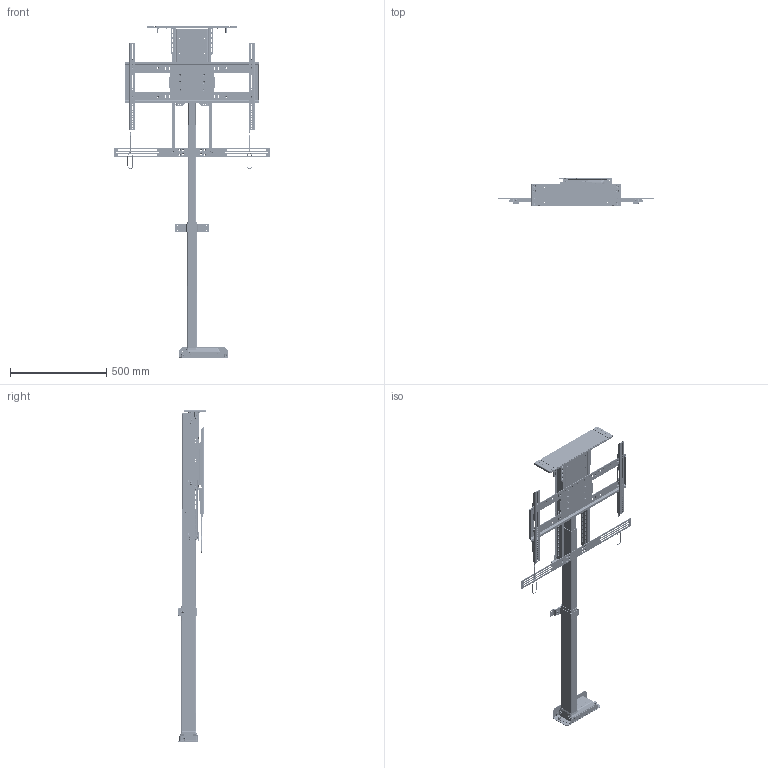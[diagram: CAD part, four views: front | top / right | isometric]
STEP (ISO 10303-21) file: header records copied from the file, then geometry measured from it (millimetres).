
FILE_DESCRIPTION(/* description */ ('STEP AP242','CAx-IF Rec.Pracs.---Representation and Presentation of Product Manufacturing Information (PMI)---4.0---2014-10-13','CAx-IF Rec.Pracs.---3D Tessellated Geometry---0.4---2014-09-14','2;1'),/* implementation_level */ '2;1');
FILE_NAME(/* name */ '63effbe2e841dc2814848030',/* time_stamp */ '2023-02-17T22:12:55+00:00',/* author */ (''),/* organization */ (''),/* preprocessor_version */ 'ST-DEVELOPER v18.102',/* originating_system */ ' ',/* authorisation */ ' ');
FILE_SCHEMA (('AP242_MANAGED_MODEL_BASED_3D_ENGINEERING_MIM_LF { 1 0 10303 442 1 1 4 }'));
Products named in the file (64): L-65/s; Hex socket countersunk head screw M6x1 x 16; Hex socket countersunk head screw M6x1 x 12; Socket button head screw M6x1 x 12; WDS8151-215; ULS-NX-011 - ULS ACCESSORY MOUNTING BRACKET SPACER <2>; ULS-NX-011 - UL ACCESSORY MOUNTING BRACKET SPACER; PRODUCT_NAME_1; ULS Accessories <1>; ULS-NX-010 - ULS ACCESSORY MOUNTING BRACKET W PEMS <2>; PEM CLS-M6-2  ; ULS-NX-010 - UL ACCESSORY MOUNTING BRACKET; L-85 SOUND BAR MOUNT; ULS-NX-010 - ULS ACCESSORY MOUNTING BRACKET W PEMS <1>; ULS-NX-108 - ULS SCREEN SUPPORT WELDMENT <1>; PEM CLS-M6-1  ; F-M6-3 M6 PEM NUT; ULS-NX-008 - UL SCREEN SUPPORT SHELL; ULS-NX-009 - ULS SCREEN SUPPORT TOP PLATE <1>; ULS-NX-009 - UL SCREEN SUPPORT TOP PLATE; Lid Plate Assembly W/ Lid Supports <1>; ULS-NX-012 - ULS LID SUPPORT W PEMS <1>; UL LID SUPPORT (ULS-NX-012); ULS-NX-012 - ULS LID SUPPORT W PEMS <2>; LID-FL-ULS - ULS Lid Plate Assembly <1>; ULS-NX-006 - Lid Adapter W/ Pin <1>; OLD_ULS-NX-006 - UL LID ADAPTER <1>; ULS-NX-006 - UL LID ADAPTER; FHS-273-24 PEM; FL Sub Asm <1>; 97069A106_Zinc-Plated Steel Spring Lock Washer; Plain washer large grade A M6; Hex socket countersunk head screw M6x1 x 8; ULS-NX-007 - UL LID PLATE EXTENDER; Hex nut grade C M6x1; NEX-LM-032 LID PIN GUIDE; ULS-NX-005 - UL LID PLATE W PEMS <1>; ULS-NX-005 - UL LID PLATE; PEM FHS-M6-15  ; SBP & VMB <1>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
Assembly tree (196 placements, depth 6):
  L-65/s
    Hex socket countersunk head screw M6x1 x 16  x4
    Hex socket countersunk head screw M6x1 x 12  x12
    Socket button head screw M6x1 x 12  x16
    WDS8151-215  x4
    ULS-NX-011 - ULS ACCESSORY MOUNTING BRACKET SPACER <2>
      ULS-NX-011 - UL ACCESSORY MOUNTING BRACKET SPACER
      PRODUCT_NAME_1  x2
    ULS Accessories <1>
      Hex socket countersunk head screw M6x1 x 12  x2
      ULS-NX-010 - ULS ACCESSORY MOUNTING BRACKET W PEMS <2>
        PEM CLS-M6-2    x4
        ULS-NX-010 - UL ACCESSORY MOUNTING BRACKET
      L-85 SOUND BAR MOUNT
      ULS-NX-010 - ULS ACCESSORY MOUNTING BRACKET W PEMS <1>
        PEM CLS-M6-2    x4
        ULS-NX-010 - UL ACCESSORY MOUNTING BRACKET
    ULS-NX-108 - ULS SCREEN SUPPORT WELDMENT <1>
      PEM CLS-M6-1    x32
      F-M6-3 M6 PEM NUT
      ULS-NX-008 - UL SCREEN SUPPORT SHELL
      ULS-NX-009 - ULS SCREEN SUPPORT TOP PLATE <1>
        PEM CLS-M6-1    x4
        ULS-NX-009 - UL SCREEN SUPPORT TOP PLATE
    Lid Plate Assembly W/ Lid Supports <1>
      ULS-NX-012 - ULS LID SUPPORT W PEMS <1>
        PEM CLS-M6-2    x2
        UL LID SUPPORT (ULS-NX-012)
      ULS-NX-012 - ULS LID SUPPORT W PEMS <2>
        PEM CLS-M6-2    x2
        UL LID SUPPORT (ULS-NX-012)
      LID-FL-ULS - ULS Lid Plate Assembly <1>
        ULS-NX-006 - Lid Adapter W/ Pin <1>
          OLD_ULS-NX-006 - UL LID ADAPTER <1>
            ULS-NX-006 - UL LID ADAPTER
            FHS-273-24 PEM  x2
        FL Sub Asm <1>
          97069A106_Zinc-Plated Steel Spring Lock Washer  x4
          Plain washer large grade A M6  x4
          Hex socket countersunk head screw M6x1 x 8  x4
          ULS-NX-007 - UL LID PLATE EXTENDER  x2
          Hex nut grade C M6x1  x4
          NEX-LM-032 LID PIN GUIDE  x2
          ULS-NX-005 - UL LID PLATE W PEMS <1>
            PEM CLS-M6-2    x8
            ULS-NX-005 - UL LID PLATE
            PEM FHS-M6-15    x4
    SBP & VMB <1>
      PZ Pan head screw M5x0.80 x 25  x2
      ULS-NX-017 - UL SCREEN BACK PLATE
      Lanyard  x2
      ULS-NX-118 - UL VMB WELDMENT <2>
        Socket button head cap screw #6-32 x 0.188  x2
        VMB Washer  x4
        ULS-NX-019 - UL LEVEL ADJUSTMENT PLATE
        PEM BSO-632-10  ZI  x2
        90107A012  x2
        ULS-NX-018 - UL VERICAL MOUNTING BAR
        ULS-NX-020 - UL SCREEN LOCK
      ULS-NX-118 - UL VMB WELDMENT <1>
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Bounding box: 812.8 x 146.38 x 1727.68 mm (x, y, z)
Volume: 8969984 mm3; surface area: 2018580.6 mm2
Topology: 175 solids, 175 shells, 12193 faces, 32577 edges, 21135 vertices
Faces by surface type: plane 8521, cylinder 2080, cone 773, bspline 535, torus 242, sphere 42
Full cylindrical faces by diameter (mm): 2.032 x14, 2.642 x4, 3.175 x10, 3.505 x4, 4.6 x2, 4.917 x61, 5 x16, 5.026 x4, 5.08 x4, 5.277 x8, 5.3 x6, 5.385 x12, 5.41 x8, 5.486 x4, 5.499 x2, 5.6 x4, 5.613 x6, 5.944 x4, 5.994 x2, 6 x72, 6.095 x2, 6.35 x16, 6.4 x4, 6.528 x4, 6.6 x2, 6.604 x4, 6.655 x4, 6.934 x2, 6.976 x1, 7.112 x2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
Entity records: 106027 total; most frequent: CARTESIAN_POINT 20427, DIRECTION 16828, ORIENTED_EDGE 16256, EDGE_CURVE 8128, AXIS2_PLACEMENT_3D 5788, VERTEX_POINT 5412, LINE 5252, VECTOR 5252
